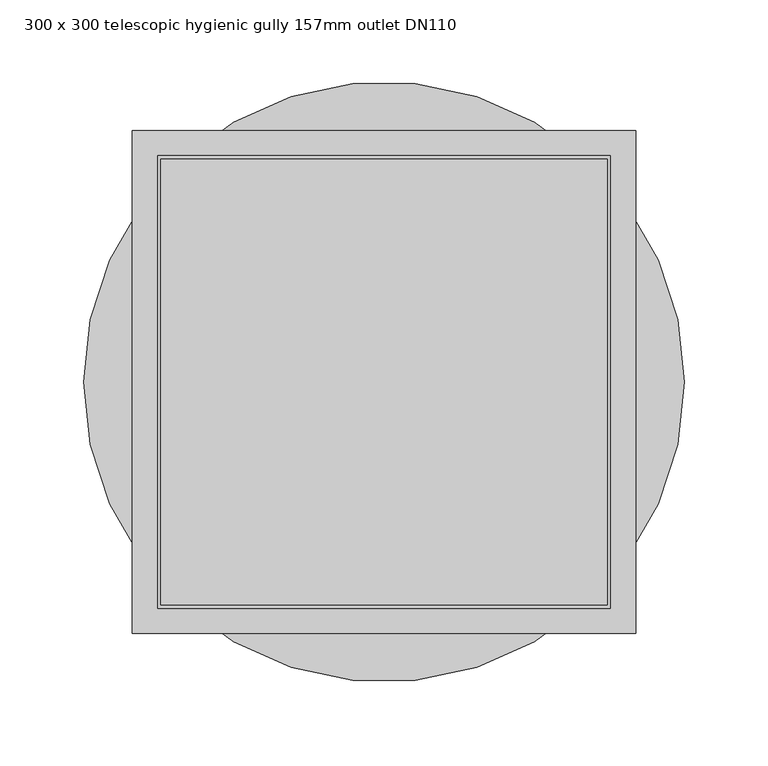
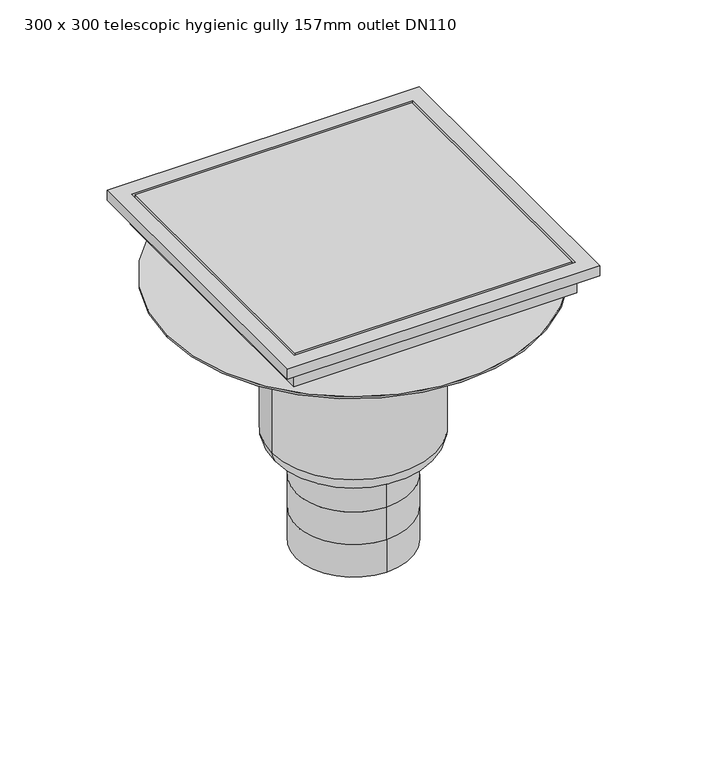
"""IFC4 building model written with IfcOpenShell, lengths in millimetres: sanitary terminal geometry, PF_ST_UN_Siphon telescopics eskis hygiene first_ACO : 300 x 300 telescopic hygienic gully 157mm outlet DN110."""

from ifc_helpers import new_model, si_unit, point, frame, origin, origin_2d, place, context, project, spatial, polyline, circle_curve, ellipse_curve, trimmed, segment, composite_curve, outline, extrude, faceted_brep, source, transform, mapped, element, save
from ifc_brep_helpers import plane_surface, cylinder_surface, revolved_surface, advanced_brep


def sanitary_terminal_300_x_300_telescopic_hygienic_gully_157mm_847159e9(model_context):
    return source(origin(), model_context, "Body", "SolidModel", [
        extrude(outline(composite_curve([segment(trimmed(circle_curve(origin_2d(), 71.5), [point((-71.5, 0.0))], [point((71.5, 0.0))], False, "CARTESIAN"), True, "CONTINUOUS"), segment(trimmed(circle_curve(origin_2d(), 71.5), [point((71.5, 0.0))], [point((-71.5, 0.0))], False, "CARTESIAN"), True, "CONTINUOUS")], self_intersect=False)), frame((0.0, 0.0, -219.0), z_axis=(0.0, 0.0, 1.0), x_axis=(1.0, 0.0, 0.0)), (0.0, 0.0, 1.0), 68.0),
        faceted_brep([(150.0, 150.0, -130.0), (150.0, 150.0, -120.0), (150.0, -150.0, -120.0), (150.0, -150.0, -130.0), (136.0, 136.0, -151.0), (136.0, 136.0, -130.0), (136.0, -136.0, -130.0), (136.0, -136.0, -151.0), (135.0, -135.0, -120.0), (135.0, 135.0, -120.0), (135.0, 135.0, -141.0), (135.0, -135.0, -141.0), (-150.0, -150.0, -120.0), (-150.0, -150.0, -130.0), (-136.0, -136.0, -130.0), (-136.0, -136.0, -151.0), (-135.0, -135.0, -120.0), (-135.0, -135.0, -141.0), (-150.0, 150.0, -120.0), (-150.0, 150.0, -130.0), (-136.0, 136.0, -130.0), (-136.0, 136.0, -151.0), (-135.0, 135.0, -120.0), (-135.0, 135.0, -141.0)], [[[0, 1, 2, 3]], [[4, 5, 6, 7]], [[8, 9, 10, 11]], [[3, 2, 12, 13]], [[7, 6, 14, 15]], [[16, 8, 11, 17]], [[13, 12, 18, 19]], [[15, 14, 20, 21]], [[22, 16, 17, 23]], [[2, 1, 18, 12], [9, 8, 16, 22]], [[1, 0, 19, 18]], [[0, 3, 13, 19], [6, 5, 20, 14]], [[5, 4, 21, 20]], [[4, 7, 15, 21]], [[9, 22, 23, 10]], [[11, 10, 23, 17]]]),
        extrude(outline(polyline([(133.0, 133.0), (133.0, -133.0), (-133.0, -133.0), (-133.0, 133.0), (133.0, 133.0)])), frame((0.0, 0.0, -141.0), z_axis=(0.0, 0.0, 1.0), x_axis=(1.0, 0.0, 0.0)), (0.0, 0.0, 1.0), 21.0),
        advanced_brep(
        [(0.0, -55.0, -436.0), (0.0, 55.0, -436.0), (0.0, -55.0, -403.0), (0.0, 55.0, -403.0), (0.0, -55.0, -370.0), (0.0, 55.0, -370.0), (0.0, 55.0, -337.0), (55.0, 0.0, -337.0), (0.0, -55.0, -337.0), (-55.0, 0.0, -337.0), (78.5, 0.0, -320.5), (-78.5, 0.0, -320.5), (-78.5, 0.0, -168.0), (78.5, 0.0, -168.0), (62.0, 0.0, -337.0), (-62.0, 0.0, -337.0), (-179.0, 0.0, -168.0), (179.0, 0.0, -168.0), (-179.0, 0.0, -166.0), (179.0, 0.0, -166.0)],
        [
            (0, 1, circle_curve(frame((0.0, 0.0, -436.0), z_axis=(0.0, 0.0, -1.0), x_axis=(0.0, 1.0, 0.0)), 55.0)),
            (1, 0, circle_curve(frame((0.0, 0.0, -436.0), z_axis=(0.0, 0.0, -1.0), x_axis=(0.0, 1.0, 0.0)), 55.0)),
            (0, 2),
            (2, 3, circle_curve(frame((0.0, 0.0, -403.0), z_axis=(0.0, 0.0, -1.0), x_axis=(0.0, 1.0, 0.0)), 55.0)),
            (3, 1),
            (3, 2, circle_curve(frame((0.0, 0.0, -403.0), z_axis=(0.0, 0.0, -1.0), x_axis=(0.0, 1.0, 0.0)), 55.0)),
            (4, 2),
            (3, 5),
            (5, 4, circle_curve(frame((0.0, 0.0, -370.0), z_axis=(0.0, 0.0, -1.0), x_axis=(1.0, 0.0, 0.0)), 55.0)),
            (4, 5, circle_curve(frame((0.0, 0.0, -370.0), z_axis=(0.0, 0.0, -1.0), x_axis=(-1.0, 0.0, 0.0)), 55.0)),
            (5, 6),
            (6, 7, circle_curve(frame((0.0, 0.0, -337.0), z_axis=(0.0, 0.0, -1.0), x_axis=(0.0, 1.0, 0.0)), 55.0)),
            (7, 8, circle_curve(frame((0.0, 0.0, -337.0), z_axis=(0.0, 0.0, -1.0), x_axis=(0.0, 1.0, 0.0)), 55.0)),
            (8, 4),
            (8, 9, circle_curve(frame((0.0, 0.0, -337.0), z_axis=(0.0, 0.0, -1.0), x_axis=(0.0, 1.0, 0.0)), 55.0)),
            (9, 6, circle_curve(frame((0.0, 0.0, -337.0), z_axis=(0.0, 0.0, -1.0), x_axis=(0.0, 1.0, 0.0)), 55.0)),
            (10, 11, circle_curve(frame((0.0, 0.0, -320.5), z_axis=(0.0, 0.0, 1.0), x_axis=(-1.0, 0.0, 0.0)), 78.5)),
            (11, 12),
            (12, 13, circle_curve(frame((0.0, 0.0, -168.0), z_axis=(0.0, 0.0, -1.0), x_axis=(-1.0, 0.0, 0.0)), 78.5)),
            (13, 10),
            (11, 10, circle_curve(frame((0.0, 0.0, -320.5), z_axis=(0.0, 0.0, 1.0), x_axis=(-1.0, 0.0, 0.0)), 78.5)),
            (13, 12, circle_curve(frame((0.0, 0.0, -168.0), z_axis=(0.0, 0.0, -1.0), x_axis=(-1.0, 0.0, 0.0)), 78.5)),
            (10, 14, circle_curve(frame((62.0, 0.0, -320.5), z_axis=(0.0, 1.0, 0.0), x_axis=(-1.0, 0.0, 0.0)), 16.5)),
            (14, 15, circle_curve(frame((0.0, 0.0, -337.0), z_axis=(0.0, 0.0, 1.0), x_axis=(-1.0, 0.0, 0.0)), 62.0)),
            (15, 11, circle_curve(frame((-62.0, 0.0, -320.5), z_axis=(0.0, 1.0, 0.0), x_axis=(1.0, 0.0, 0.0)), 16.5)),
            (15, 14, circle_curve(frame((0.0, 0.0, -337.0), z_axis=(0.0, 0.0, 1.0), x_axis=(-1.0, 0.0, 0.0)), 62.0)),
            (14, 7),
            (9, 15),
            (16, 17, circle_curve(frame((0.0, 0.0, -168.0), z_axis=(0.0, 0.0, -1.0), x_axis=(1.0, 0.0, 0.0)), 179.0)),
            (17, 16, circle_curve(frame((0.0, 0.0, -168.0), z_axis=(0.0, 0.0, -1.0), x_axis=(1.0, 0.0, 0.0)), 179.0)),
            (18, 19, circle_curve(frame((0.0, 0.0, -166.0), z_axis=(0.0, 0.0, 1.0), x_axis=(1.0, 0.0, 0.0)), 179.0)),
            (19, 18, circle_curve(frame((0.0, 0.0, -166.0), z_axis=(0.0, 0.0, 1.0), x_axis=(1.0, 0.0, 0.0)), 179.0)),
            (17, 19),
            (18, 16),
        ],
        [
            plane_surface(frame((0.0, 55.0, -436.0), z_axis=(0.0, 0.0, -1.0), x_axis=(1.0, 0.0, 0.0))),
            cylinder_surface(frame((0.0, 0.0, -403.0), z_axis=(0.0, 0.0, -1.0), x_axis=(0.0, 1.0, 0.0)), 55.0),
            cylinder_surface(frame((0.0, 0.0, -370.0), z_axis=(0.0, 0.0, -1.0), x_axis=(1.0, 0.0, 0.0)), 55.0),
            cylinder_surface(frame((0.0, 0.0, -370.0), z_axis=(0.0, 0.0, -1.0), x_axis=(-1.0, 0.0, 0.0)), 55.0),
            cylinder_surface(frame((0.0, 0.0, -337.0), z_axis=(0.0, 0.0, -1.0), x_axis=(0.0, 1.0, 0.0)), 55.0),
            cylinder_surface(frame((0.0, 0.0, -106.0), z_axis=(0.0, 0.0, -1.0), x_axis=(-1.0, 0.0, 0.0)), 78.5),
            revolved_surface(trimmed(ellipse_curve(frame((-62.0, 0.0, -320.5), z_axis=(0.0, -1.0, 0.0), x_axis=(1.0, 0.0, 0.0)), 16.5, 16.5), [point((-78.5, 0.0, -320.5))], [point((-62.0, 0.0, -337.0))], True, "CARTESIAN"), (0.0, 0.0, -106.0), (0.0, 0.0, -1.0)),
            plane_surface(frame((0.0, 0.0, -337.0), z_axis=(0.0, 0.0, -1.0), x_axis=(-1.0, 0.0, 0.0))),
            plane_surface(frame((179.0, 0.0, -168.0), z_axis=(0.0, 0.0, -1.0), x_axis=(0.0, -1.0, 0.0))),
            plane_surface(frame((179.0, 0.0, -166.0), z_axis=(0.0, 0.0, 1.0), x_axis=(0.0, 1.0, 0.0))),
            cylinder_surface(frame((0.0, 0.0, -168.0), z_axis=(0.0, 0.0, 1.0), x_axis=(1.0, 0.0, 0.0)), 179.0),
        ],
        [
            (0, [[1, 2]]),
            (1, [[-1, 3, 4, 5]]),
            (1, [[-2, -5, 6, -3]]),
            (2, [[7, -6, 8, 9]]),
            (3, [[-7, 10, -8, -4]]),
            (4, [[11, 12, 13, 14, -9]]),
            (4, [[-11, -10, -14, 15, 16]]),
            (5, [[17, 18, 19, 20]]),
            (5, [[-18, 21, -20, 22]]),
            (6, [[-17, 23, 24, 25]]),
            (6, [[-21, -25, 26, -23]]),
            (7, [[-24, 27, -12, -16, 28]]),
            (7, [[-26, -28, -15, -13, -27]]),
            (8, [[29, 30], [-19, -22]]),
            (9, [[31, 32]]),
            (10, [[-30, 33, -31, 34]]),
            (10, [[-29, -34, -32, -33]]),
        ],
    ),
    ])


if __name__ == "__main__":
    model = new_model("IFC4")
    model_context = context("Model", 3, world=origin())
    ifc_project = project(units=[si_unit("LENGTHUNIT", "METRE", prefix="MILLI")], contexts=[model_context])
    site = spatial("IfcSite", under=ifc_project)
    building = spatial("IfcBuilding", under=site)
    placement = place(None, origin())
    sanitary_terminal_300_x_300_telescopic_hygienic_gully_157mm_shape = sanitary_terminal_300_x_300_telescopic_hygienic_gully_157mm_847159e9(model_context)
    element("IfcSanitaryTerminal", 1, ObjectType="PF_ST_UN_Siphon telescopics eskis hygiene first_ACO : 300 x 300 telescopic hygienic gully 157mm outlet DN110", at=placement, inside=building, context=model_context, shape_type="MappedRepresentation", body=[
        mapped(sanitary_terminal_300_x_300_telescopic_hygienic_gully_157mm_shape, transform((0.0, 0.0, 0.0), x_axis=(1.0, 0.0, 0.0), y_axis=(0.0, 1.0, 0.0), z_axis=(0.0, 0.0, 1.0))),
    ])
    save(model, "model.ifc")
